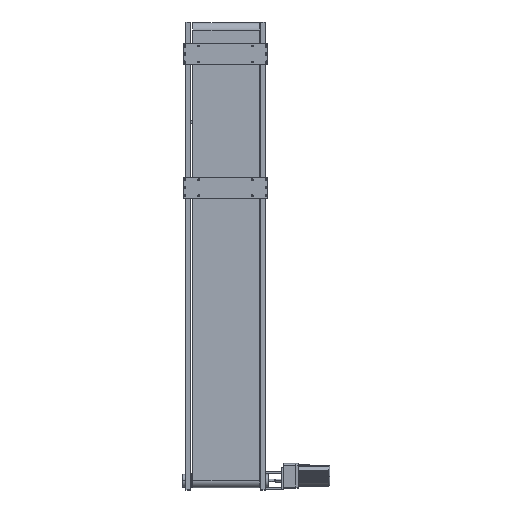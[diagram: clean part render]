
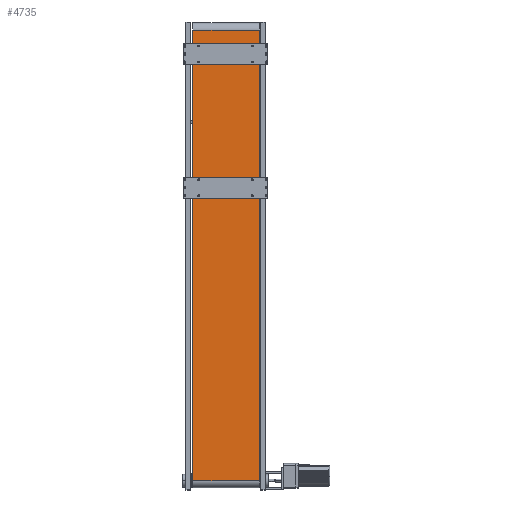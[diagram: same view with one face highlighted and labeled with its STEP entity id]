
A CAD part, top view. The second image highlights one B-rep face of the part: STEP entity #4735.
In plain terms, the highlighted planar face has unit normal (0, 0, 1) as drawn and (0, 1, 0) by its records, which use the part's own axes.
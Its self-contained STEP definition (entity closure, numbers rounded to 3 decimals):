
#3104=PLANE('',#27281);
#4735=ADVANCED_FACE('',(#6516),#3104,.F.);
#6516=FACE_OUTER_BOUND('',#8124,.T.);
#8124=EDGE_LOOP('',(#17196,#17197,#17198,#17199));
#9511=LINE('',#45930,#11336);
#9514=LINE('',#45941,#11339);
#9518=LINE('',#45954,#11343);
#9520=LINE('',#45958,#11345);
#11336=VECTOR('',#31834,1.);
#11339=VECTOR('',#31845,1.);
#11343=VECTOR('',#31857,1.);
#11345=VECTOR('',#31863,1.);
#17196=ORIENTED_EDGE('',*,*,#24196,.T.);
#17197=ORIENTED_EDGE('',*,*,#24203,.F.);
#17198=ORIENTED_EDGE('',*,*,#24190,.F.);
#17199=ORIENTED_EDGE('',*,*,#24205,.T.);
#20861=VERTEX_POINT('',#45925);
#20863=VERTEX_POINT('',#45929);
#20867=VERTEX_POINT('',#45940);
#20868=VERTEX_POINT('',#45942);
#24190=EDGE_CURVE('',#20863,#20861,#9511,.T.);
#24196=EDGE_CURVE('',#20868,#20867,#9514,.T.);
#24203=EDGE_CURVE('',#20861,#20867,#9518,.T.);
#24205=EDGE_CURVE('',#20863,#20868,#9520,.T.);
#27281=AXIS2_PLACEMENT_3D('',#45960,#31866,#31867);
#31834=DIRECTION('',(-1.,0.,0.));
#31845=DIRECTION('',(-1.,0.,0.));
#31857=DIRECTION('',(0.,0.,-1.));
#31863=DIRECTION('',(0.,0.,-1.));
#31866=DIRECTION('',(0.,-1.,0.));
#31867=DIRECTION('',(-1.,0.,0.));
#45925=CARTESIAN_POINT('',(-842.5,27.,125.));
#45929=CARTESIAN_POINT('',(842.5,27.,125.));
#45930=CARTESIAN_POINT('',(842.5,27.,125.));
#45940=CARTESIAN_POINT('',(-842.5,27.,-125.));
#45941=CARTESIAN_POINT('',(842.5,27.,-125.));
#45942=CARTESIAN_POINT('',(842.5,27.,-125.));
#45954=CARTESIAN_POINT('',(-842.5,27.,125.));
#45958=CARTESIAN_POINT('',(842.5,27.,125.));
#45960=CARTESIAN_POINT('',(842.5,27.,125.));
